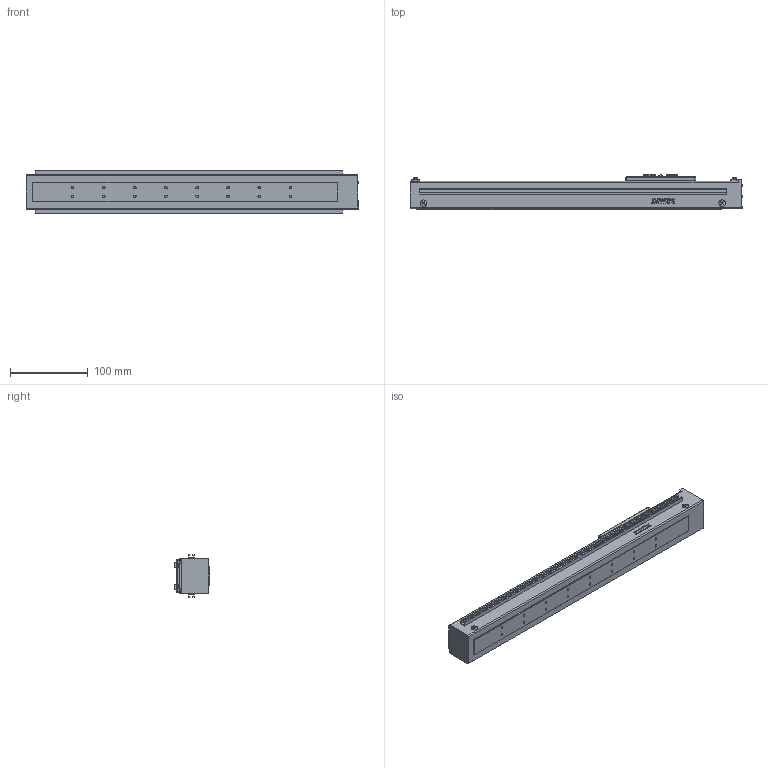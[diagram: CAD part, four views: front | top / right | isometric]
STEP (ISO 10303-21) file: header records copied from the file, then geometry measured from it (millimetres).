
FILE_DESCRIPTION(/* description */ (''),/* implementation_level */ '2;1');
FILE_NAME(/* name */ 'D:\混合母檔20191031\混和母檔\混和母檔\bin\Debug\Download\3D\KE405C-250AF0\KE405C-250AF0.stp',/* time_stamp */ '2019-11-04T13:37:05+08:00',/* author */ ('user'),/* organization */ (''),/* preprocessor_version */ 'ST-DEVELOPER v16.13',/* originating_system */ 'Autodesk Inventor 2018',/* authorisation */ '');
FILE_SCHEMA (('AUTOMOTIVE_DESIGN { 1 0 10303 214 3 1 1 }'));
Length unit declared in the file: millimetre
Products named in the file (3): KE405C-250AF0; KE40-F0-BP; KE40-SL
Assembly tree (2 placements, depth 2):
  KE405C-250AF0
    KE40-F0-BP
    KE40-SL
Bounding box: 427 x 45 x 55 mm (x, y, z)
Volume: 700169.8 mm3; surface area: 108047.4 mm2
Topology: 3 solids, 15 shells, 942 faces, 2540 edges, 1666 vertices
Faces by surface type: plane 471, cone 162, bspline 136, cylinder 101, torus 62, sphere 10
Full cylindrical faces by diameter (mm): 2.459 x6, 2.5 x2, 2.729 x6, 3 x6, 3.242 x16, 3.3 x4, 3.5 x6, 4 x4, 8.4 x8, 20 x1
Entity records: 34507 total; most frequent: CARTESIAN_POINT 12109, ORIENTED_EDGE 4762, DIRECTION 4268, EDGE_CURVE 2381, VERTEX_POINT 1617, AXIS2_PLACEMENT_3D 1451, LINE 1366, VECTOR 1366
